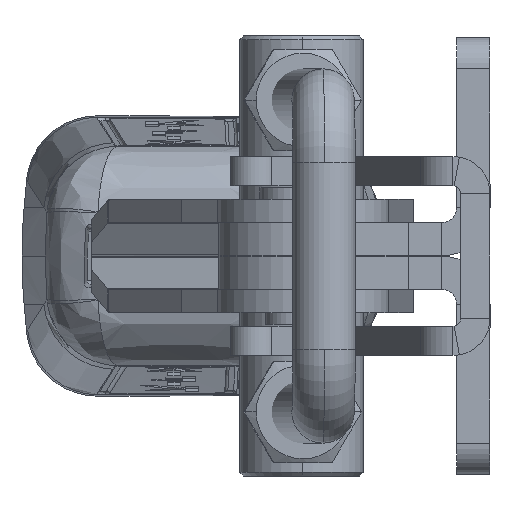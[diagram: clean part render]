
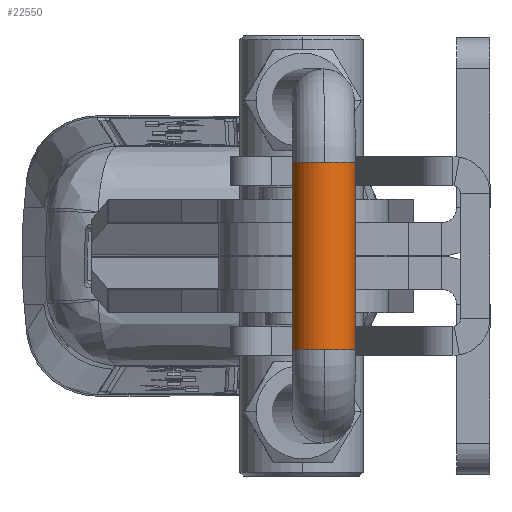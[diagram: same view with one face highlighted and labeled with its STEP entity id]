
A CAD part, left-side view. The second image highlights one B-rep face of the part: STEP entity #22550.
In plain terms, the highlighted cylindrical face has radius 4 mm (diameter 8 mm), a partial arc.
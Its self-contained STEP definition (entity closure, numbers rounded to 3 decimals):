
#959 = CIRCLE ( 'NONE', #12146, 4. ) ;
#1964 = AXIS2_PLACEMENT_3D ( 'NONE', #10807, #24055, #12697 ) ;
#2005 = VERTEX_POINT ( 'NONE', #21358 ) ;
#2054 = ORIENTED_EDGE ( 'NONE', *, *, #18195, .T. ) ;
#2557 = LINE ( 'NONE', #2707, #17102 ) ;
#2707 = CARTESIAN_POINT ( 'NONE',  ( -12., 205., -4. ) ) ;
#2790 = DIRECTION ( 'NONE',  ( 1., 0., 0. ) ) ;
#2836 = CARTESIAN_POINT ( 'NONE',  ( 12., 205., 4. ) ) ;
#2952 = CARTESIAN_POINT ( 'NONE',  ( -12., 205., 0. ) ) ;
#3851 = ORIENTED_EDGE ( 'NONE', *, *, #22635, .F. ) ;
#4029 = CIRCLE ( 'NONE', #19427, 4. ) ;
#4462 = VECTOR ( 'NONE', #4785, 1000. ) ;
#4785 = DIRECTION ( 'NONE',  ( 1., 0., 0. ) ) ;
#4881 = DIRECTION ( 'NONE',  ( 0., 0., 1. ) ) ;
#5247 = FACE_OUTER_BOUND ( 'NONE', #13178, .T. ) ;
#5311 = EDGE_CURVE ( 'NONE', #2005, #6448, #959, .T. ) ;
#6125 = CARTESIAN_POINT ( 'NONE',  ( -12., 205., 0. ) ) ;
#6448 = VERTEX_POINT ( 'NONE', #16532 ) ;
#6542 = DIRECTION ( 'NONE',  ( 1., 0., 0. ) ) ;
#7714 = CIRCLE ( 'NONE', #1964, 4. ) ;
#9571 = ORIENTED_EDGE ( 'NONE', *, *, #21515, .F. ) ;
#10070 = DIRECTION ( 'NONE',  ( 1., 0., 0. ) ) ;
#10718 = CARTESIAN_POINT ( 'NONE',  ( 12., 209., 0. ) ) ;
#10807 = CARTESIAN_POINT ( 'NONE',  ( -12., 205., 0. ) ) ;
#10920 = VERTEX_POINT ( 'NONE', #10718 ) ;
#12068 = VERTEX_POINT ( 'NONE', #12477 ) ;
#12146 = AXIS2_PLACEMENT_3D ( 'NONE', #2952, #16207, #4881 ) ;
#12335 = VERTEX_POINT ( 'NONE', #2836 ) ;
#12455 = EDGE_CURVE ( 'NONE', #6448, #12068, #7714, .T. ) ;
#12477 = CARTESIAN_POINT ( 'NONE',  ( -12., 205., 4. ) ) ;
#12697 = DIRECTION ( 'NONE',  ( 0., 0., 1. ) ) ;
#13178 = EDGE_LOOP ( 'NONE', ( #20991, #20974, #2054, #3851, #15969, #9571 ) ) ;
#13633 = DIRECTION ( 'NONE',  ( 1., 0., 0. ) ) ;
#13764 = CIRCLE ( 'NONE', #23550, 4. ) ;
#14689 = CYLINDRICAL_SURFACE ( 'NONE', #21964, 4. ) ;
#15969 = ORIENTED_EDGE ( 'NONE', *, *, #23075, .F. ) ;
#16207 = DIRECTION ( 'NONE',  ( 1., 0., 0. ) ) ;
#16532 = CARTESIAN_POINT ( 'NONE',  ( -12., 209., 0. ) ) ;
#17102 = VECTOR ( 'NONE', #2790, 1000. ) ;
#17861 = CARTESIAN_POINT ( 'NONE',  ( 12., 205., 0. ) ) ;
#18173 = VERTEX_POINT ( 'NONE', #21786 ) ;
#18195 = EDGE_CURVE ( 'NONE', #12068, #12335, #19554, .T. ) ;
#18890 = CARTESIAN_POINT ( 'NONE',  ( -12., 205., 4. ) ) ;
#19363 = DIRECTION ( 'NONE',  ( 0., 0., -1. ) ) ;
#19427 = AXIS2_PLACEMENT_3D ( 'NONE', #17861, #6542, #19780 ) ;
#19554 = LINE ( 'NONE', #18890, #4462 ) ;
#19780 = DIRECTION ( 'NONE',  ( 0., 0., 1. ) ) ;
#20974 = ORIENTED_EDGE ( 'NONE', *, *, #12455, .T. ) ;
#20991 = ORIENTED_EDGE ( 'NONE', *, *, #5311, .T. ) ;
#21358 = CARTESIAN_POINT ( 'NONE',  ( -12., 205., -4. ) ) ;
#21400 = CARTESIAN_POINT ( 'NONE',  ( 12., 205., 0. ) ) ;
#21515 = EDGE_CURVE ( 'NONE', #2005, #18173, #2557, .T. ) ;
#21786 = CARTESIAN_POINT ( 'NONE',  ( 12., 205., -4. ) ) ;
#21964 = AXIS2_PLACEMENT_3D ( 'NONE', #6125, #13633, #19363 ) ;
#22550 = ADVANCED_FACE ( 'NONE', ( #5247 ), #14689, .T. ) ;
#22635 = EDGE_CURVE ( 'NONE', #10920, #12335, #4029, .T. ) ;
#23075 = EDGE_CURVE ( 'NONE', #18173, #10920, #13764, .T. ) ;
#23282 = DIRECTION ( 'NONE',  ( 0., 0., 1. ) ) ;
#23550 = AXIS2_PLACEMENT_3D ( 'NONE', #21400, #10070, #23282 ) ;
#24055 = DIRECTION ( 'NONE',  ( 1., 0., 0. ) ) ;
